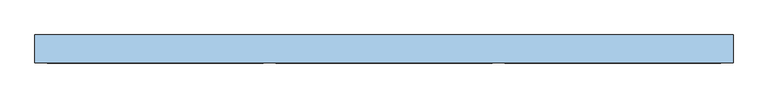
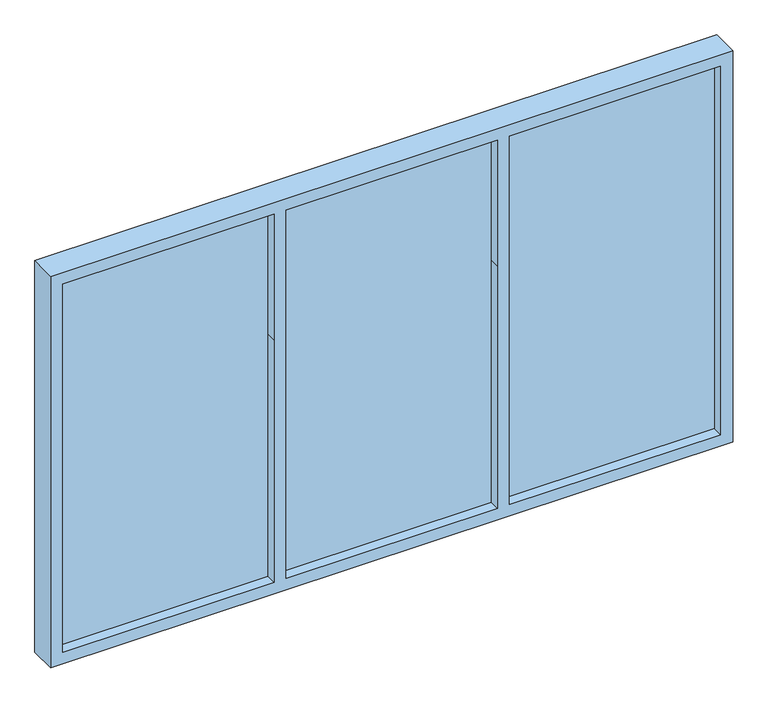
"""IFC4 building model written with IfcOpenShell, lengths in millimetres: window geometry."""

from ifc_helpers import new_model, si_unit, frame, origin, place, context, project, spatial, polyline, outline, extrude, source, transform, mapped, element, save


def window_1341161b(model_context):
    return source(origin(), model_context, "Body", "SweptSolid", [
        extrude(outline(polyline([(584.2, 1456.7075246), (1464.7333333, 1456.7075246), (1464.7333333, 1431.3075246), (584.2, 1431.3075246), (584.2, 1456.7075246)])), frame((0.0, 0.0, 956.6367551), z_axis=(0.0, 0.0, 1.0), x_axis=(1.0, 0.0, 0.0)), (0.0, 0.0, 1.0), 1625.6),
        extrude(outline(polyline([(-347.1333333, 1456.7075246), (533.4, 1456.7075246), (533.4, 1431.3075246), (-347.1333333, 1431.3075246), (-347.1333333, 1456.7075246)])), frame((0.0, 0.0, 956.6367551), z_axis=(0.0, 0.0, 1.0), x_axis=(1.0, 0.0, 0.0)), (0.0, 0.0, 1.0), 1625.6),
        extrude(outline(polyline([(-1278.4666667, 1456.7075246), (-397.9333333, 1456.7075246), (-397.9333333, 1431.3075246), (-1278.4666667, 1431.3075246), (-1278.4666667, 1456.7075246)])), frame((0.0, 0.0, 956.6367551), z_axis=(0.0, 0.0, 1.0), x_axis=(1.0, 0.0, 0.0)), (0.0, 0.0, 1.0), 1625.6),
        extrude(outline(polyline([(2633.0367551, -1329.2666667), (905.8367551, -1329.2666667), (905.8367551, 1515.5333333), (2633.0367551, 1515.5333333), (2633.0367551, -1329.2666667)]), holes=[polyline([(2582.2367551, 584.2), (2582.2367551, 1464.7333333), (956.6367551, 1464.7333333), (956.6367551, 584.2), (2074.2367551, 584.2), (2582.2367551, 584.2)]), polyline([(2582.2367551, -347.1333333), (2582.2367551, 533.4), (2023.4367551, 533.4), (956.6367551, 533.4), (956.6367551, -347.1333333), (2023.4367551, -347.1333333), (2582.2367551, -347.1333333)]), polyline([(2582.2367551, -1278.4666667), (2582.2367551, -397.9333333), (2023.4367551, -397.9333333), (956.6367551, -397.9333333), (956.6367551, -1278.4666667), (2582.2367551, -1278.4666667)])]), frame((0.0, 1386.8575246, 0.0), z_axis=(0.0, 1.0, 0.0), x_axis=(0.0, 0.0, 1.0)), (0.0, 0.0, 1.0), 114.3),
    ])


if __name__ == "__main__":
    model = new_model("IFC4")
    model_context = context("Model", 3, world=origin())
    ifc_project = project(units=[si_unit("LENGTHUNIT", "METRE", prefix="MILLI")], contexts=[model_context])
    site = spatial("IfcSite", under=ifc_project)
    building = spatial("IfcBuilding", under=site)
    placement = place(None, origin())
    window_shape = window_1341161b(model_context)
    element("IfcWindow", 1, ObjectType="Aluminum_Exterior_Window_-_3_wide_x_2_high_3891.0001 : 112\"W. x 68\"H.", at=placement, inside=building, context=model_context, shape_type="MappedRepresentation", body=[
        mapped(window_shape, transform((0.0, 0.0, 0.0), x_axis=(1.0, 0.0, 0.0), y_axis=(0.0, 1.0, 0.0), z_axis=(0.0, 0.0, 1.0))),
    ])
    save(model, "model.ifc")
